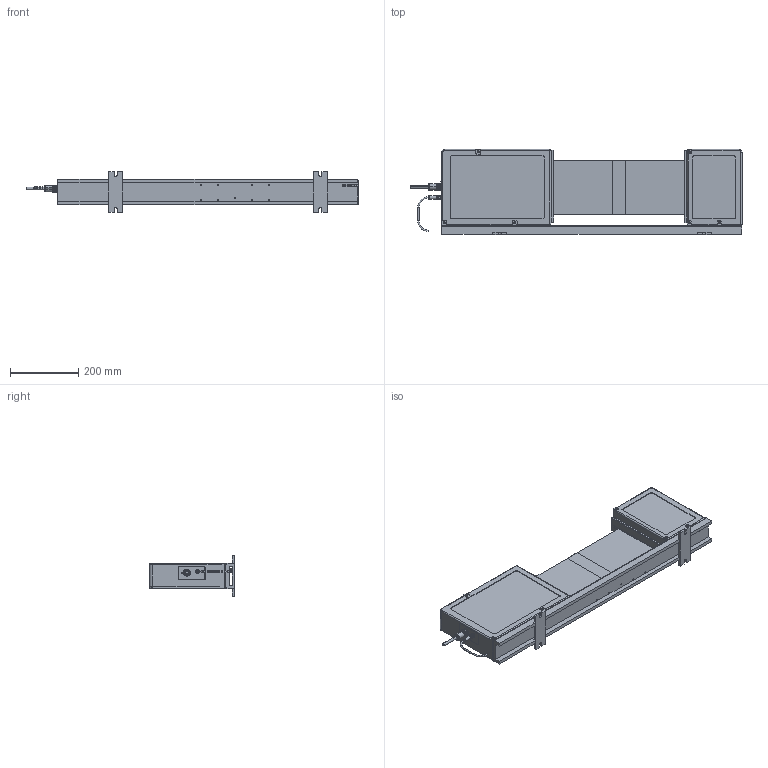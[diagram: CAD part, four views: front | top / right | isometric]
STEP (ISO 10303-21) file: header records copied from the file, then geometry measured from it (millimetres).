
FILE_DESCRIPTION(('Creo Elements/Direct Modeling STEP Export'),'2;1');
FILE_NAME('516S.stp','2015-03-05T16:31:42',(''),(''),'Creo Elements/Direct Modeling STEP processor for AP214 (Solid Model)','Creo Elements/Direct Modeling 18.1C 24-Feb-2013 (C) Parametric Technology GmbH','');
FILE_SCHEMA(('AUTOMOTIVE_DESIGN { 1 0 10303 214 1 1 1 1 }'));
Length unit declared in the file: millimetre
Products named in the file (9): 5; 6; 4; 7; 8; 1; 3; 2; LSM-516S
Assembly tree (8 placements, depth 2):
  LSM-516S
    2
    3
    1
    8
    7
    4
    6
    5
Bounding box: 972.68 x 249 x 120 mm (x, y, z)
Volume: 8506499 mm3; surface area: 758404 mm2
Topology: 8 solids, 8 shells, 1364 faces, 3266 edges, 1996 vertices
Faces by surface type: plane 613, cylinder 466, cone 262, torus 16, sphere 4, bspline 3
Entity records: 41343 total; most frequent: CARTESIAN_POINT 13308, ORIENTED_EDGE 6520, DIRECTION 4512, EDGE_CURVE 3260, VERTEX_POINT 1996, AXIS2_PLACEMENT_3D 1516, EDGE_LOOP 1486, VECTOR 1480
